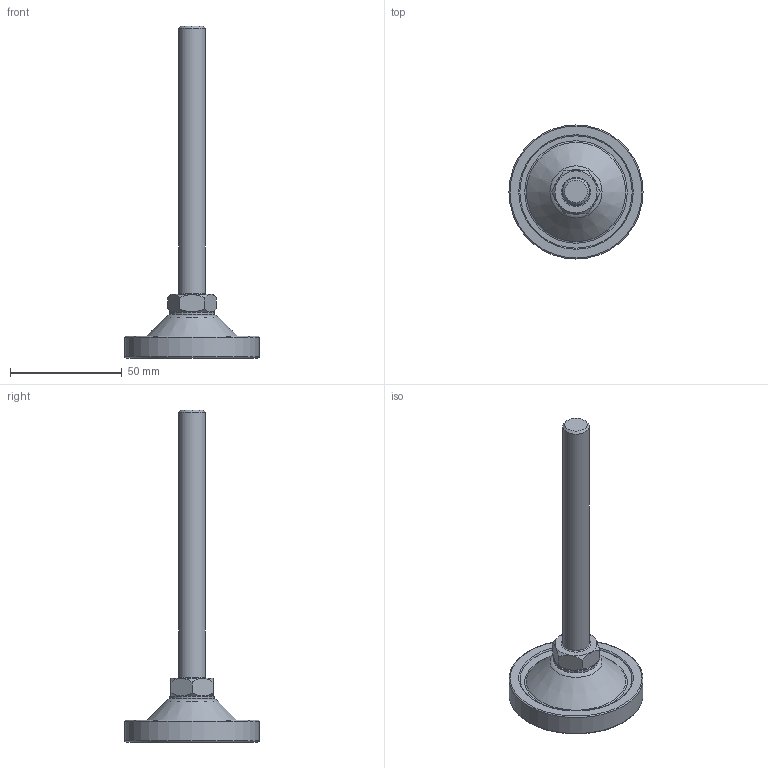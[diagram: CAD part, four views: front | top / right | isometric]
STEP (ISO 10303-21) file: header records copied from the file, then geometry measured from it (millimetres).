
FILE_DESCRIPTION(/* description */ (''),/* implementation_level */ '2;1');
FILE_NAME(/* name */ 'D:\조절자\PFR\PFR-M12-120L.stp',/* time_stamp */ '2016-03-14T15:06:25+09:00',/* author */ ('GS-DT-1-001'),/* organization */ (''),/* preprocessor_version */ 'ST-DEVELOPER v15.6',/* originating_system */ 'Autodesk Inventor LT ',/* authorisation */ '');
FILE_SCHEMA (('AUTOMOTIVE_DESIGN { 1 0 10303 214 3 1 1 }'));
Length unit declared in the file: millimetre
Products named in the file (1): PFR-M12-120L
Bounding box: 60 x 60 x 148.5 mm (x, y, z)
Volume: 39742.5 mm3; surface area: 21833.5 mm2
Topology: 5 solids, 5 shells, 69 faces, 126 edges, 77 vertices
Faces by surface type: plane 26, torus 20, cone 13, cylinder 10
Full cylindrical faces by diameter (mm): 5.153 x1, 6 x1, 6.2 x2, 12 x2, 20 x1, 54 x1, 54.2 x1, 60 x1
Entity records: 1438 total; most frequent: DIRECTION 264, CARTESIAN_POINT 242, ORIENTED_EDGE 154, AXIS2_PLACEMENT_3D 129, EDGE_LOOP 126, EDGE_CURVE 77, VERTEX_POINT 71, FACE_OUTER_BOUND 69
